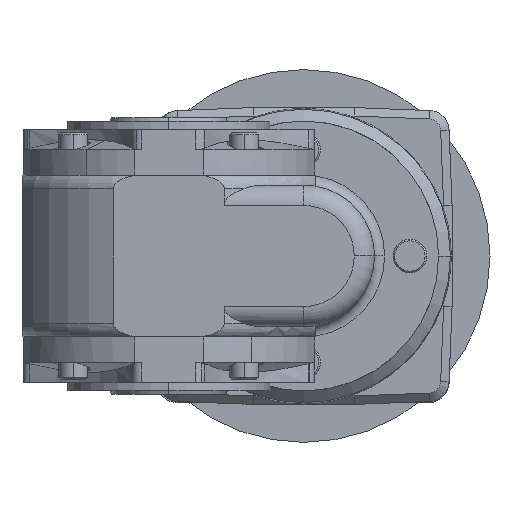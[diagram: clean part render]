
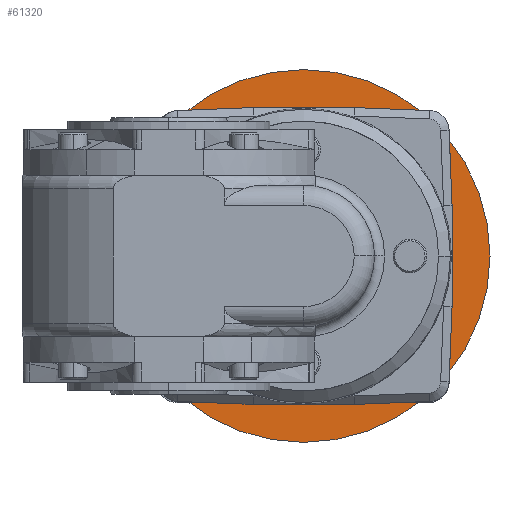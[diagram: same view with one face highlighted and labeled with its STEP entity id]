
A CAD part, left-side view. The second image highlights one B-rep face of the part: STEP entity #61320.
In plain terms, the highlighted planar face has unit normal (-1, 0, 0).
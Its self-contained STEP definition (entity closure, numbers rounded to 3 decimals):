
#42370=CARTESIAN_POINT('',(-52.458,-286.495,
-10.233));
#42380=VERTEX_POINT('',#42370);
#42540=CARTESIAN_POINT('',(-52.458,-286.495,
100.267));
#42550=VERTEX_POINT('',#42540);
#42580=CARTESIAN_POINT('',(-52.458,-286.495,
45.017));
#42590=DIRECTION('',(-1.,0.,0.));
#42600=DIRECTION('',(0.,0.,-1.));
#42610=AXIS2_PLACEMENT_3D('',#42580,#42590,#42600);
#42620=CIRCLE('',#42610,55.25);
#42630=EDGE_CURVE('',#42550,#42380,#42620,.T.);
#61070=CARTESIAN_POINT('',(-52.458,-314.514,
21.235));
#61080=DIRECTION('',(-1.,0.,0.));
#61090=DIRECTION('',(0.,1.,0.));
#61100=AXIS2_PLACEMENT_3D('',#61070,#61080,#61090);
#61110=PLANE('',#61100);
#61120=EDGE_CURVE('',#42380,#42550,#42620,.T.);
#61130=ORIENTED_EDGE('',*,*,#61120,.T.);
#61140=ORIENTED_EDGE('',*,*,#42630,.T.);
#61150=EDGE_LOOP('',(#61140,#61130));
#61160=FACE_OUTER_BOUND('',#61150,.T.);
#61170=CARTESIAN_POINT('',(-52.458,-286.731,
45.253));
#61180=DIRECTION('',(1.,0.,0.));
#61190=DIRECTION('',(0.,0.,-1.));
#61200=AXIS2_PLACEMENT_3D('',#61170,#61180,#61190);
#61210=CIRCLE('',#61200,40.);
#61220=CARTESIAN_POINT('',(-52.458,-286.731,
5.253));
#61230=VERTEX_POINT('',#61220);
#61240=CARTESIAN_POINT('',(-52.458,-286.731,
85.253));
#61250=VERTEX_POINT('',#61240);
#61260=EDGE_CURVE('',#61230,#61250,#61210,.T.);
#61270=ORIENTED_EDGE('',*,*,#61260,.T.);
#61280=EDGE_CURVE('',#61250,#61230,#61210,.T.);
#61290=ORIENTED_EDGE('',*,*,#61280,.T.);
#61300=EDGE_LOOP('',(#61290,#61270));
#61310=FACE_BOUND('',#61300,.T.);
#61320=ADVANCED_FACE('',(#61160,#61310),#61110,.T.);
